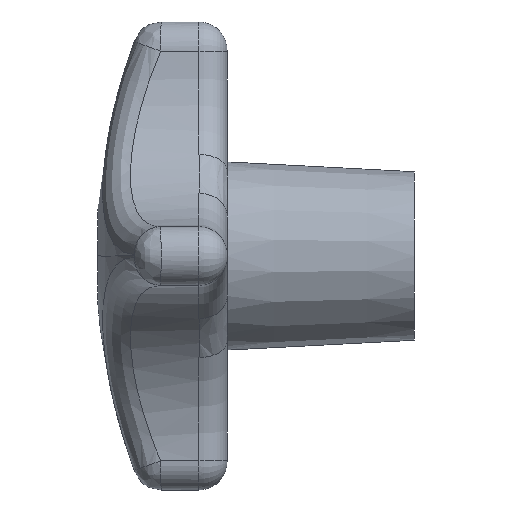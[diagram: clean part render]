
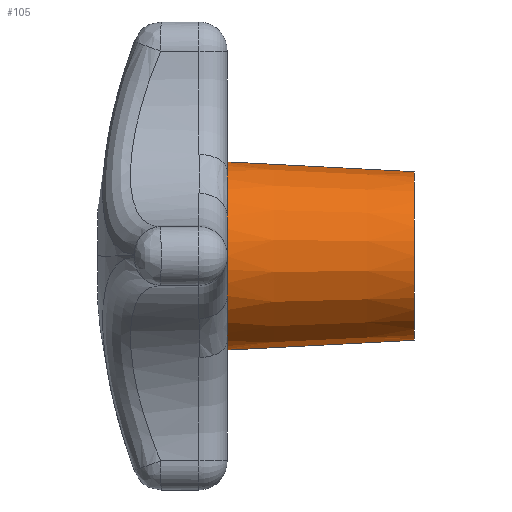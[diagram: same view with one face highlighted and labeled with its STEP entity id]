
A CAD part, left-side view. The second image highlights one B-rep face of the part: STEP entity #105.
In plain terms, the highlighted conical face has half-angle 3 degrees and reference radius 9 mm.
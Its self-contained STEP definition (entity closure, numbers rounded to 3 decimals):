
#12 = EDGE_CURVE ( 'NONE', #92, #16, #7432, .T. ) ;
#16 = VERTEX_POINT ( 'NONE', #7450 ) ;
#63 = VERTEX_POINT ( 'NONE', #7291 ) ;
#65 = EDGE_CURVE ( 'NONE', #66, #63, #7475, .T. ) ;
#66 = VERTEX_POINT ( 'NONE', #7471 ) ;
#92 = VERTEX_POINT ( 'NONE', #7384 ) ;
#99 = ORIENTED_EDGE ( 'NONE', *, *, #65, .F. ) ;
#105 = ADVANCED_FACE ( 'NONE', ( #570 ), #531, .T. ) ;
#106 = EDGE_CURVE ( 'NONE', #209, #170, #577, .T. ) ;
#107 = ORIENTED_EDGE ( 'NONE', *, *, #208, .F. ) ;
#109 = ORIENTED_EDGE ( 'NONE', *, *, #110, .T. ) ;
#110 = EDGE_CURVE ( 'NONE', #66, #92, #558, .T. ) ;
#111 = ORIENTED_EDGE ( 'NONE', *, *, #12, .T. ) ;
#112 = EDGE_CURVE ( 'NONE', #170, #244, #554, .T. ) ;
#113 = EDGE_CURVE ( 'NONE', #244, #177, #563, .T. ) ;
#114 = ORIENTED_EDGE ( 'NONE', *, *, #112, .F. ) ;
#115 = ORIENTED_EDGE ( 'NONE', *, *, #106, .F. ) ;
#136 = ORIENTED_EDGE ( 'NONE', *, *, #113, .F. ) ;
#142 = EDGE_LOOP ( 'NONE', ( #99, #109, #111, #153, #136, #114, #115, #107 ) ) ;
#153 = ORIENTED_EDGE ( 'NONE', *, *, #156, .F. ) ;
#156 = EDGE_CURVE ( 'NONE', #177, #16, #735, .T. ) ;
#170 = VERTEX_POINT ( 'NONE', #686 ) ;
#177 = VERTEX_POINT ( 'NONE', #813 ) ;
#208 = EDGE_CURVE ( 'NONE', #63, #209, #1016, .T. ) ;
#209 = VERTEX_POINT ( 'NONE', #966 ) ;
#244 = VERTEX_POINT ( 'NONE', #1177 ) ;
#514 = CARTESIAN_POINT ( 'NONE',  ( 0., 0., 0. ) ) ;
#515 = DIRECTION ( 'NONE',  ( 0., 0., 1. ) ) ;
#516 = DIRECTION ( 'NONE',  ( 0., 1., 0. ) ) ;
#517 = CARTESIAN_POINT ( 'NONE',  ( 0., 0., 0. ) ) ;
#518 = AXIS2_PLACEMENT_3D ( 'NONE', #517, #516, #515 ) ;
#530 = DIRECTION ( 'NONE',  ( 0., 1., 0. ) ) ;
#531 = CONICAL_SURFACE ( 'NONE', #569, 9., 0.052 ) ;
#553 = DIRECTION ( 'NONE',  ( 0., 0., 1. ) ) ;
#554 = CIRCLE ( 'NONE', #518, 10.048 ) ;
#555 = DIRECTION ( 'NONE',  ( 0., 0., 1. ) ) ;
#556 = DIRECTION ( 'NONE',  ( 0., 1., 0. ) ) ;
#557 = AXIS2_PLACEMENT_3D ( 'NONE', #578, #556, #555 ) ;
#558 = CIRCLE ( 'NONE', #557, 9. ) ;
#559 = DIRECTION ( 'NONE',  ( 0., 0., 1. ) ) ;
#560 = DIRECTION ( 'NONE',  ( 0., 0., 1. ) ) ;
#561 = DIRECTION ( 'NONE',  ( 0., 1., 0. ) ) ;
#562 = AXIS2_PLACEMENT_3D ( 'NONE', #514, #561, #560 ) ;
#563 = CIRCLE ( 'NONE', #562, 10.048 ) ;
#568 = CARTESIAN_POINT ( 'NONE',  ( 0., -20., 0. ) ) ;
#569 = AXIS2_PLACEMENT_3D ( 'NONE', #568, #530, #559 ) ;
#570 = FACE_OUTER_BOUND ( 'NONE', #142, .T. ) ;
#574 = DIRECTION ( 'NONE',  ( 0., 1., 0. ) ) ;
#575 = CARTESIAN_POINT ( 'NONE',  ( 0., 0., 0. ) ) ;
#576 = AXIS2_PLACEMENT_3D ( 'NONE', #575, #574, #553 ) ;
#577 = CIRCLE ( 'NONE', #576, 10.048 ) ;
#578 = CARTESIAN_POINT ( 'NONE',  ( 0., -20., 0. ) ) ;
#686 = CARTESIAN_POINT ( 'NONE',  ( -9.092, 0., -4.278 ) ) ;
#732 = DIRECTION ( 'NONE',  ( 0., 0., 1. ) ) ;
#733 = DIRECTION ( 'NONE',  ( 0., 1., 0. ) ) ;
#734 = AXIS2_PLACEMENT_3D ( 'NONE', #762, #733, #732 ) ;
#735 = CIRCLE ( 'NONE', #734, 10.048 ) ;
#762 = CARTESIAN_POINT ( 'NONE',  ( 0., 0., 0. ) ) ;
#813 = CARTESIAN_POINT ( 'NONE',  ( -4.278, 0., 9.092 ) ) ;
#886 = CARTESIAN_POINT ( 'NONE',  ( 0., 0., 0. ) ) ;
#966 = CARTESIAN_POINT ( 'NONE',  ( -4.278, 0., -9.092 ) ) ;
#967 = DIRECTION ( 'NONE',  ( 0., 0., 1. ) ) ;
#968 = DIRECTION ( 'NONE',  ( 0., 1., 0. ) ) ;
#969 = AXIS2_PLACEMENT_3D ( 'NONE', #886, #968, #967 ) ;
#1016 = CIRCLE ( 'NONE', #969, 10.048 ) ;
#1177 = CARTESIAN_POINT ( 'NONE',  ( -9.092, 0., 4.278 ) ) ;
#7256 = DIRECTION ( 'NONE',  ( 0., 0.999, 0.052 ) ) ;
#7257 = CARTESIAN_POINT ( 'NONE',  ( 0., -20., 9. ) ) ;
#7291 = CARTESIAN_POINT ( 'NONE',  ( 0., 0., -10.048 ) ) ;
#7376 = VECTOR ( 'NONE', #7256, 1000. ) ;
#7384 = CARTESIAN_POINT ( 'NONE',  ( 0., -20., 9. ) ) ;
#7432 = LINE ( 'NONE', #7257, #7376 ) ;
#7450 = CARTESIAN_POINT ( 'NONE',  ( 0., 0., 10.048 ) ) ;
#7471 = CARTESIAN_POINT ( 'NONE',  ( 0., -20., -9. ) ) ;
#7472 = DIRECTION ( 'NONE',  ( 0., 0.999, -0.052 ) ) ;
#7473 = VECTOR ( 'NONE', #7472, 1000. ) ;
#7474 = CARTESIAN_POINT ( 'NONE',  ( 0., -20., -9. ) ) ;
#7475 = LINE ( 'NONE', #7474, #7473 ) ;
